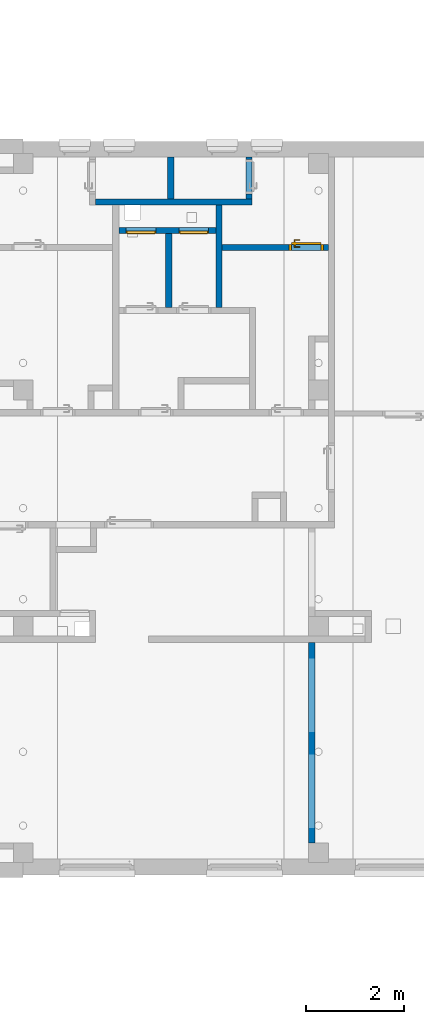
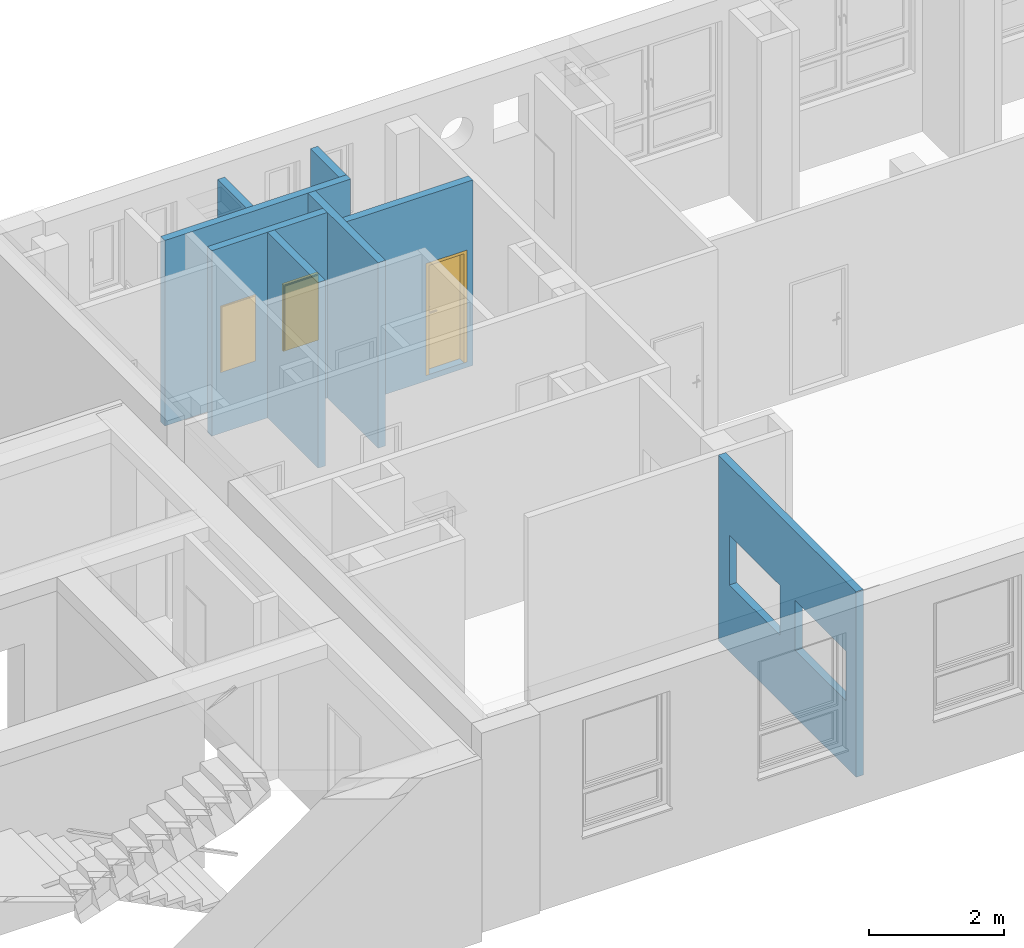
# One storey, part 11 of 50: 8 walls, 2 windows, 1 door, 6 openings.
"""IFC4 building model written with IfcOpenShell, lengths in metres."""

from ifc_helpers import new_model, entity, si_unit, converted_unit, derived_unit, frame, frame_2d, origin, origin_with_axes, place, context, subcontext, project, spatial, polyline, rectangle, outline, extrude, closed_shell, open_shell, faceted_brep, surface_model, source, transform, mapped, material, layer, layer_set, layer_usage, type_object, element, fill, save


model = new_model("IFC4")

# Units and contexts
model_context = context("Model", 3, precision=1e-05, world=origin())
body_context = subcontext(model_context, "Body", "Model", "MODEL_VIEW")
ifc_project = project(units=[si_unit("LENGTHUNIT", "METRE"), si_unit("AREAUNIT", "SQUARE_METRE"), si_unit("VOLUMEUNIT", "CUBIC_METRE"), si_unit("MASSUNIT", "GRAM", prefix="KILO"), converted_unit("PLANEANGLEUNIT", "DEGREE", entity("IfcPlaneAngleMeasure", 0.0174532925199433), si_unit("PLANEANGLEUNIT", "RADIAN"), dimensions=[0, 0, 0, 0, 0, 0, 0]), derived_unit("THERMALTRANSMITTANCEUNIT", [(si_unit("POWERUNIT", "WATT"), 1), (si_unit("THERMODYNAMICTEMPERATUREUNIT", "KELVIN"), -1), (si_unit("LENGTHUNIT", "METRE"), -2)]), derived_unit("VOLUMETRICFLOWRATEUNIT", [(si_unit("LENGTHUNIT", "METRE"), 3), (converted_unit("TIMEUNIT", "hour", entity("IfcTimeMeasure", 3600.0), si_unit("TIMEUNIT", "SECOND"), dimensions=[0, 0, 1, 0, 0, 0, 0]), -1), (si_unit("LENGTHUNIT", "METRE"), -1)])], contexts=[model_context])

# Site, building, storey
site_placement = place(None, origin())
site = spatial("IfcSite", under=ifc_project, at=site_placement, Name="3. ASŘ", CompositionType="ELEMENT")
building_placement = place(site_placement, origin())
building = spatial("IfcBuilding", under=site, at=building_placement, Name="Pavilon C", CompositionType="ELEMENT")
storey_placement = place(building_placement, frame((0.0, 0.0, 3.6)))
storey = spatial("IfcBuildingStorey", under=building, at=storey_placement, Name="Půdorys 2.NP", CompositionType="ELEMENT", Elevation=3.6)

# Wall, openings
ifc_material_1 = material(Name="ZDIVO Z CDm")
ifc_layer_1 = layer(ifc_material_1, 0.125)
ifc_layer_set_1 = layer_set([ifc_layer_1])
ifc_layer_usage_1 = layer_usage(ifc_layer_set_1, "AXIS2", "POSITIVE", 0.0)
wall_1_placement = place(storey_placement, frame((5.80000000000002, 5.075, -0.1), z_axis=(0.0, 0.0, 1.0), x_axis=(-2.23188883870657e-16, -1.0, 0.0)))
wall_1 = element("IfcWall", 1, at=wall_1_placement, inside=storey, material=ifc_layer_usage_1, Name="ZDIVO Z CDm", context=body_context, shape_type="SweptSolid", body=[
    extrude(rectangle(XDim=4.075, YDim=0.125, at=frame_2d((2.0375, 0.0625), x_axis=(1.0, 0.0))), origin_with_axes(), (0.0, 0.0, 1.0), 3.35),
])
opening_1_placement = place(wall_1_placement, frame((0.325000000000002, 7.2536387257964e-17, 1.2), z_axis=(0.0, 1.0, 0.0), x_axis=(0.0, 0.0, 1.0)))
element("IfcOpeningElement", 2, at=opening_1_placement, cuts=wall_1, Name="Okenní otvor", ObjectType="Opening", context=body_context, shape_type="SweptSolid", body=[
    extrude(outline(polyline([(0.0, 1.5), (0.9, 1.5), (0.9, 0.0), (0.0, 0.0), (0.0, 1.5)])), origin_with_axes(), (0.0, 0.0, 1.0), 0.125),
])
opening_2_placement = place(wall_1_placement, frame((2.275, -4.01739990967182e-16, 1.2), z_axis=(0.0, 1.0, 0.0), x_axis=(0.0, 0.0, 1.0)))
element("IfcOpeningElement", 3, at=opening_2_placement, cuts=wall_1, Name="Okenní otvor", ObjectType="Opening", context=body_context, shape_type="SweptSolid", body=[
    extrude(outline(polyline([(0.0, 1.5), (0.9, 1.5), (0.9, 0.0), (0.0, 0.0), (0.0, 1.5)])), origin_with_axes(), (0.0, 0.0, 1.0), 0.125),
])

# Wall
ifc_material_2 = material(Name="ZDIVO Z CDm")
ifc_layer_2 = layer(ifc_material_2, 0.125)
ifc_layer_set_2 = layer_set([ifc_layer_2])
ifc_layer_usage_2 = layer_usage(ifc_layer_set_2, "AXIS2", "POSITIVE", 0.0)
wall_2_placement = place(storey_placement, frame((1.475, 13.955, -0.1)))
element("IfcWall", 4, at=wall_2_placement, inside=storey, material=ifc_layer_usage_2, Name="ZDIVO Z CDm", context=body_context, shape_type="SweptSolid", body=[
    extrude(rectangle(XDim=3.175, YDim=0.125, at=frame_2d((1.5875, 0.0625), x_axis=(1.0, 0.0))), origin_with_axes(), (0.0, 0.0, 1.0), 3.35),
])

# Wall, opening
ifc_material_3 = material(Name="ZDIVO Z CDm")
ifc_layer_3 = layer(ifc_material_3, 0.125)
ifc_layer_set_3 = layer_set([ifc_layer_3])
ifc_layer_usage_3 = layer_usage(ifc_layer_set_3, "AXIS2", "POSITIVE", 0.0)
wall_3_placement = place(storey_placement, frame((4.65, 14.08, -0.1), z_axis=(0.0, 0.0, 1.0), x_axis=(0.0, 1.0, 0.0)))
wall_3 = element("IfcWall", 5, at=wall_3_placement, inside=storey, material=ifc_layer_usage_3, Name="ZDIVO Z CDm", context=body_context, shape_type="SweptSolid", body=[
    extrude(rectangle(XDim=0.85, YDim=0.125, at=frame_2d((0.425, 0.0625), x_axis=(1.0, 0.0))), origin_with_axes(), (0.0, 0.0, 1.0), 3.35),
])
opening_3_placement = place(wall_3_placement, frame((0.799999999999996, 0.125, 0.1), z_axis=(0.0, -1.0, 0.0), x_axis=(0.0, 0.0, 1.0)))
element("IfcOpeningElement", 6, at=opening_3_placement, cuts=wall_3, Name="Dveřní otvor", ObjectType="Opening", context=body_context, shape_type="SweptSolid", body=[
    extrude(outline(polyline([(0.0, 0.7), (2.02, 0.7), (2.02, 0.0), (0.0, 0.0), (0.0, 0.7)])), origin_with_axes(), (0.0, 0.0, 1.0), 0.125),
])

# Wall
ifc_material_4 = material(Name="ZDIVO Z CDm")
ifc_layer_4 = layer(ifc_material_4, 0.125)
ifc_layer_set_4 = layer_set([ifc_layer_4])
ifc_layer_usage_4 = layer_usage(ifc_layer_set_4, "AXIS2", "POSITIVE", 0.0)
wall_4_placement = place(storey_placement, frame((2.9375, 14.93, -0.1), z_axis=(0.0, 0.0, 1.0), x_axis=(0.0, -1.0, 0.0)))
element("IfcWall", 7, at=wall_4_placement, inside=storey, material=ifc_layer_usage_4, Name="ZDIVO Z CDm", context=body_context, shape_type="SweptSolid", body=[
    extrude(rectangle(XDim=0.85, YDim=0.125, at=frame_2d((0.425, 0.0625), x_axis=(1.0, 0.0))), origin_with_axes(), (0.0, 0.0, 1.0), 3.35),
])

# Wall, openings, windows
ifc_material_5 = material(Name="ZDIVO Z CDm")
ifc_layer_5 = layer(ifc_material_5, 0.125)
ifc_layer_set_5 = layer_set([ifc_layer_5])
ifc_layer_usage_5 = layer_usage(ifc_layer_set_5, "AXIS2", "POSITIVE", 0.0)
wall_5_placement = place(storey_placement, frame((3.92, 13.505, -0.1), z_axis=(0.0, 0.0, 1.0), x_axis=(-1.0, 0.0, 0.0)))
wall_5 = element("IfcWall", 8, at=wall_5_placement, inside=storey, material=ifc_layer_usage_5, Name="ZDIVO Z CDm", context=body_context, shape_type="SweptSolid", body=[
    extrude(rectangle(XDim=1.975, YDim=0.125, at=frame_2d((0.9875, 0.0625), x_axis=(1.0, 0.0))), origin_with_axes(), (0.0, 0.0, 1.0), 3.35),
])
opening_4_placement = place(wall_5_placement, frame((1.825, 0.125, 1.1), z_axis=(0.0, -1.0, 0.0), x_axis=(0.0, 0.0, 1.0)))
opening_4 = element("IfcOpeningElement", 9, at=opening_4_placement, cuts=wall_5, Name="Okenní otvor", ObjectType="Opening", context=body_context, shape_type="SweptSolid", body=[
    extrude(outline(polyline([(0.0, 0.6), (1.2, 0.6), (1.2, 0.0), (0.0, 0.0), (0.0, 0.6)])), origin_with_axes(), (0.0, 0.0, 1.0), 0.125),
])
opening_5_placement = place(wall_5_placement, frame((0.75, 0.125, 1.1), z_axis=(0.0, -1.0, 0.0), x_axis=(0.0, 0.0, 1.0)))
opening_5 = element("IfcOpeningElement", 10, at=opening_5_placement, cuts=wall_5, Name="Okenní otvor", ObjectType="Opening", context=body_context, shape_type="SweptSolid", body=[
    extrude(outline(polyline([(0.0, 0.6), (1.2, 0.6), (1.2, 0.0), (0.0, 0.0), (0.0, 0.6)])), origin_with_axes(), (0.0, 0.0, 1.0), 0.125),
])
shared_shape_1 = source(origin_with_axes(), body_context, "Body", "Brep", [
    faceted_brep([(0.0, 0.0600000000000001, 1.2), (0.0, 0.06, 4.91096680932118e-19), (0.02, 0.06, 4.91096680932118e-19), (0.02, 0.0600000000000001, 1.2), (0.0, 0.01, 6.61433067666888e-18), (0.0, 0.0100000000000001, 1.2), (0.02, 0.0100000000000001, 1.2), (0.02, 0.01, 6.61433067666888e-18)], [[[0, 1, 2, 3]], [[4, 5, 6, 7]], [[1, 0, 5, 4]], [[2, 1, 4, 7]], [[3, 2, 7, 6]], [[0, 3, 6, 5]]], orient=[[False], [False], [False], [False], [False], [False]]),
    faceted_brep([(0.58, 0.0600000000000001, 1.2), (0.58, 0.06, 4.91096680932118e-19), (0.6, 0.06, 4.91096680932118e-19), (0.6, 0.0600000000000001, 1.2), (0.58, 0.01, 6.61433067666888e-18), (0.58, 0.0100000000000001, 1.2), (0.6, 0.0100000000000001, 1.2), (0.6, 0.01, 6.61433067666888e-18)], [[[0, 1, 2, 3]], [[4, 5, 6, 7]], [[1, 0, 5, 4]], [[2, 1, 4, 7]], [[3, 2, 7, 6]], [[0, 3, 6, 5]]], orient=[[False], [False], [False], [False], [False], [False]]),
    faceted_brep([(0.02, 0.06, 0.02), (0.02, 0.06, 4.91096680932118e-19), (0.58, 0.06, 4.91096680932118e-19), (0.58, 0.06, 0.02), (0.02, 0.01, 6.61433067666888e-18), (0.02, 0.01, 0.02), (0.58, 0.01, 0.02), (0.58, 0.01, 6.61433067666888e-18)], [[[0, 1, 2, 3]], [[4, 5, 6, 7]], [[1, 0, 5, 4]], [[2, 1, 4, 7]], [[3, 2, 7, 6]], [[0, 3, 6, 5]]], orient=[[False], [False], [False], [False], [False], [False]]),
    faceted_brep([(0.02, 0.0600000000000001, 1.2), (0.02, 0.0600000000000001, 1.18), (0.58, 0.0600000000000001, 1.18), (0.58, 0.0600000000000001, 1.2), (0.02, 0.0100000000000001, 1.18), (0.02, 0.0100000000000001, 1.2), (0.58, 0.0100000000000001, 1.2), (0.58, 0.0100000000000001, 1.18)], [[[0, 1, 2, 3]], [[4, 5, 6, 7]], [[1, 0, 5, 4]], [[2, 1, 4, 7]], [[3, 2, 7, 6]], [[0, 3, 6, 5]]], orient=[[False], [False], [False], [False], [False], [False]]),
    faceted_brep([(0.02, 0.0100000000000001, 1.18), (0.02, 0.01, 0.02), (0.58, 0.01, 0.02), (0.58, 0.0100000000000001, 1.18), (0.02, 0.0, 0.02), (0.02, 1.4210854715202e-16, 1.18), (0.58, 1.4210854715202e-16, 1.18), (0.58, 0.0, 0.02)], [[[0, 1, 2, 3]], [[4, 5, 6, 7]], [[1, 0, 5, 4]], [[2, 1, 4, 7]], [[3, 2, 7, 6]], [[0, 3, 6, 5]]], orient=[[False], [False], [False], [False], [False], [False]]),
])
window_1_placement = place(opening_5_placement, frame((0.0, 0.6, -0.01), z_axis=(1.0, 0.0, 0.0), x_axis=(0.0, -1.0, 0.0)))
window_1 = element("IfcWindow", 11, at=window_1_placement, inside=storey, Name="O01", OverallHeight=1.2, OverallWidth=0.6, PartitioningType="USERDEFINED", PredefinedType="WINDOW", context=body_context, shape_type="MappedRepresentation", body=[
    mapped(shared_shape_1, transform((0.0, 0.0, 0.0), x_axis=(1.0, 0.0, 0.0), y_axis=(0.0, -1.0, 0.0), z_axis=(0.0, 0.0, 1.0), scale=1.0)),
])
fill(opening_5, window_1)
shared_shape_2 = source(origin_with_axes(), body_context, "Body", "Brep", [
    faceted_brep([(0.0, 0.0600000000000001, 1.2), (0.0, 0.06, 4.91096680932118e-19), (0.02, 0.06, 4.91096680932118e-19), (0.02, 0.0600000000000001, 1.2), (0.0, 0.01, 6.61433067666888e-18), (0.0, 0.0100000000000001, 1.2), (0.02, 0.0100000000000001, 1.2), (0.02, 0.01, 6.61433067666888e-18)], [[[0, 1, 2, 3]], [[4, 5, 6, 7]], [[1, 0, 5, 4]], [[2, 1, 4, 7]], [[3, 2, 7, 6]], [[0, 3, 6, 5]]], orient=[[False], [False], [False], [False], [False], [False]]),
    faceted_brep([(0.58, 0.0600000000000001, 1.2), (0.58, 0.06, 4.91096680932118e-19), (0.6, 0.06, 4.91096680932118e-19), (0.6, 0.0600000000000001, 1.2), (0.58, 0.01, 6.61433067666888e-18), (0.58, 0.0100000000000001, 1.2), (0.6, 0.0100000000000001, 1.2), (0.6, 0.01, 6.61433067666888e-18)], [[[0, 1, 2, 3]], [[4, 5, 6, 7]], [[1, 0, 5, 4]], [[2, 1, 4, 7]], [[3, 2, 7, 6]], [[0, 3, 6, 5]]], orient=[[False], [False], [False], [False], [False], [False]]),
    faceted_brep([(0.02, 0.06, 0.02), (0.02, 0.06, 4.91096680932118e-19), (0.58, 0.06, 4.91096680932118e-19), (0.58, 0.06, 0.02), (0.02, 0.01, 6.61433067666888e-18), (0.02, 0.01, 0.02), (0.58, 0.01, 0.02), (0.58, 0.01, 6.61433067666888e-18)], [[[0, 1, 2, 3]], [[4, 5, 6, 7]], [[1, 0, 5, 4]], [[2, 1, 4, 7]], [[3, 2, 7, 6]], [[0, 3, 6, 5]]], orient=[[False], [False], [False], [False], [False], [False]]),
    faceted_brep([(0.02, 0.0600000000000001, 1.2), (0.02, 0.0600000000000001, 1.18), (0.58, 0.0600000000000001, 1.18), (0.58, 0.0600000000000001, 1.2), (0.02, 0.0100000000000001, 1.18), (0.02, 0.0100000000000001, 1.2), (0.58, 0.0100000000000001, 1.2), (0.58, 0.0100000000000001, 1.18)], [[[0, 1, 2, 3]], [[4, 5, 6, 7]], [[1, 0, 5, 4]], [[2, 1, 4, 7]], [[3, 2, 7, 6]], [[0, 3, 6, 5]]], orient=[[False], [False], [False], [False], [False], [False]]),
    faceted_brep([(0.02, 0.0100000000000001, 1.18), (0.02, 0.01, 0.02), (0.58, 0.01, 0.02), (0.58, 0.0100000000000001, 1.18), (0.02, 0.0, 0.02), (0.02, 1.4210854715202e-16, 1.18), (0.58, 1.4210854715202e-16, 1.18), (0.58, 0.0, 0.02)], [[[0, 1, 2, 3]], [[4, 5, 6, 7]], [[1, 0, 5, 4]], [[2, 1, 4, 7]], [[3, 2, 7, 6]], [[0, 3, 6, 5]]], orient=[[False], [False], [False], [False], [False], [False]]),
])
window_2_placement = place(opening_4_placement, frame((0.0, 0.0, -0.01), z_axis=(1.0, 0.0, 0.0), x_axis=(0.0, 1.0, 0.0)))
window_2 = element("IfcWindow", 12, at=window_2_placement, inside=storey, Name="O01", OverallHeight=1.2, OverallWidth=0.6, PartitioningType="USERDEFINED", PredefinedType="WINDOW", context=body_context, shape_type="MappedRepresentation", body=[
    mapped(shared_shape_2, transform((0.0, 0.0, 0.0), x_axis=(1.0, 0.0, 0.0), y_axis=(0.0, 1.0, 0.0), z_axis=(0.0, 0.0, 1.0), scale=1.0)),
])
fill(opening_4, window_2)

# Walls
ifc_material_6 = material(Name="ZDIVO Z CDm")
ifc_layer_6 = layer(ifc_material_6, 0.125)
ifc_layer_set_6 = layer_set([ifc_layer_6])
ifc_layer_usage_6 = layer_usage(ifc_layer_set_6, "AXIS2", "POSITIVE", 0.0)
wall_6_placement = place(storey_placement, frame((2.895, 13.38, -0.1), z_axis=(0.0, 0.0, 1.0), x_axis=(-3.03164900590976e-16, -1.0, 0.0)))
element("IfcWall", 13, at=wall_6_placement, inside=storey, material=ifc_layer_usage_6, Name="ZDIVO Z CDm", context=body_context, shape_type="SweptSolid", body=[
    extrude(rectangle(XDim=1.5, YDim=0.125, at=frame_2d((0.75, 0.0625), x_axis=(1.0, 0.0))), origin_with_axes(), (0.0, 0.0, 1.0), 3.35),
])
ifc_material_7 = material(Name="ZDIVO Z CDm")
ifc_layer_7 = layer(ifc_material_7, 0.125)
ifc_layer_set_7 = layer_set([ifc_layer_7])
ifc_layer_usage_7 = layer_usage(ifc_layer_set_7, "AXIS2", "POSITIVE", 0.0)
wall_7_placement = place(storey_placement, frame((3.92, 13.955, -0.1), z_axis=(0.0, 0.0, 1.0), x_axis=(-2.19155349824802e-16, -1.0, 0.0)))
element("IfcWall", 14, at=wall_7_placement, inside=storey, material=ifc_layer_usage_7, Name="ZDIVO Z CDm", context=body_context, shape_type="SweptSolid", body=[
    extrude(rectangle(XDim=2.075, YDim=0.125, at=frame_2d((1.0375, 0.0625), x_axis=(1.0, 0.0))), origin_with_axes(), (0.0, 0.0, 1.0), 3.35),
])

# Wall, opening, door
ifc_material_8 = material(Name="ZDIVO Z CDm")
ifc_layer_8 = layer(ifc_material_8, 0.125)
ifc_layer_set_8 = layer_set([ifc_layer_8])
ifc_layer_usage_8 = layer_usage(ifc_layer_set_8, "AXIS2", "POSITIVE", 0.0)
wall_8_placement = place(storey_placement, frame((6.20000000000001, 13.155, -0.1), z_axis=(0.0, 0.0, 1.0), x_axis=(-1.0, 0.0, 0.0)))
wall_8 = element("IfcWall", 15, at=wall_8_placement, inside=storey, material=ifc_layer_usage_8, Name="ZDIVO Z CDm", context=body_context, shape_type="SweptSolid", body=[
    extrude(rectangle(XDim=2.15500000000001, YDim=0.125, at=frame_2d((1.0775, 0.0625), x_axis=(1.0, 0.0))), origin_with_axes(), (0.0, 0.0, 1.0), 3.35),
])
opening_6_placement = place(wall_8_placement, frame((0.1, 0.0, 0.1), z_axis=(0.0, 1.0, 0.0), x_axis=(0.0, 0.0, 1.0)))
opening_6 = element("IfcOpeningElement", 16, at=opening_6_placement, cuts=wall_8, Name="Dveřní otvor", ObjectType="Opening", context=body_context, shape_type="SweptSolid", body=[
    extrude(outline(polyline([(0.0, 0.7), (2.02, 0.7), (2.02, 0.0), (0.0, 0.0), (0.0, 0.7)])), origin_with_axes(), (0.0, 0.0, 1.0), 0.125),
])
door_type = type_object("IfcDoorType", Name="D101", OperationType="NOTDEFINED", ParameterTakesPrecedence=False, PredefinedType="DOOR")
shared_shape_3 = source(origin_with_axes(), body_context, "Body", "SurfaceModel", [
    surface_model("IfcShellBasedSurfaceModel", [(0.0, 0.125, 2.02), (0.0, 0.125, -7.65404249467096e-18), (0.05, 0.125, -7.65404249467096e-18), (0.05, 0.125, 2.02), (0.0, 0.0, 7.65404249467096e-18), (0.0, 2.41584530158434e-16, 2.02), (0.05, 2.41584530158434e-16, 2.02), (0.05, 0.0, 7.65404249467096e-18)], [closed_shell([[[0, 1, 2, 3]], [[4, 5, 6, 7]], [[1, 0, 5, 4]], [[2, 1, 4, 7]], [[3, 2, 7, 6]], [[0, 3, 6, 5]]], orient=[[False], [False], [False], [False], [False], [False]])]),
    surface_model("IfcShellBasedSurfaceModel", [(0.65, 0.125, 2.02), (0.65, 0.125, -7.65404249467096e-18), (0.7, 0.125, -7.65404249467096e-18), (0.7, 0.125, 2.02), (0.65, 0.0, 7.65404249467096e-18), (0.65, 2.41584530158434e-16, 2.02), (0.7, 2.41584530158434e-16, 2.02), (0.7, 0.0, 7.65404249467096e-18)], [closed_shell([[[0, 1, 2, 3]], [[4, 5, 6, 7]], [[1, 0, 5, 4]], [[2, 1, 4, 7]], [[3, 2, 7, 6]], [[0, 3, 6, 5]]], orient=[[False], [False], [False], [False], [False], [False]])]),
    surface_model("IfcShellBasedSurfaceModel", [(0.05, 0.125, 2.02), (0.05, 0.125, 1.97), (0.65, 0.125, 1.97), (0.65, 0.125, 2.02), (0.05, 2.41584530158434e-16, 1.97), (0.05, 2.41584530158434e-16, 2.02), (0.65, 2.41584530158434e-16, 2.02), (0.65, 2.41584530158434e-16, 1.97)], [closed_shell([[[0, 1, 2, 3]], [[4, 5, 6, 7]], [[1, 0, 5, 4]], [[2, 1, 4, 7]], [[3, 2, 7, 6]], [[0, 3, 6, 5]]], orient=[[False], [False], [False], [False], [False], [False]])]),
    surface_model("IfcShellBasedSurfaceModel", [(0.05, 0.165, 1.97), (0.05, 0.165, -1.25526296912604e-17), (0.65, 0.165, -1.25526296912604e-17), (0.65, 0.165, 1.97), (0.05, 0.125, -7.65404249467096e-18), (0.05, 0.125, 1.97), (0.65, 0.125, 1.97), (0.65, 0.125, -7.65404249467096e-18)], [closed_shell([[[0, 1, 2, 3]], [[4, 5, 6, 7]], [[1, 0, 5, 4]], [[2, 1, 4, 7]], [[3, 2, 7, 6]], [[0, 3, 6, 5]]], orient=[[False], [False], [False], [False], [False], [False]])]),
    surface_model("IfcShellBasedSurfaceModel", [(0.56, 0.125, 1.125), (0.56, 0.125, 0.91), (0.61, 0.125, 0.91), (0.61, 0.125, 1.125), (0.56, 0.115, 0.91), (0.56, 0.115, 1.125), (0.61, 0.115, 1.125), (0.61, 0.115, 0.91)], [closed_shell([[[0, 1, 2, 3]], [[4, 5, 6, 7]], [[1, 0, 5, 4]], [[2, 1, 4, 7]], [[3, 2, 7, 6]], [[0, 3, 6, 5]]], orient=[[False], [False], [False], [False], [False], [False]])]),
    surface_model("IfcShellBasedSurfaceModel", [(0.585, 0.115, 1.06), (0.58, 0.115, 1.05866025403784), (0.576339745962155, 0.115, 1.055), (0.575, 0.115, 1.05), (0.576339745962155, 0.115, 1.045), (0.58, 0.115, 1.04133974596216), (0.585, 0.115, 1.04), (0.59, 0.115, 1.04133974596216), (0.593660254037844, 0.115, 1.045), (0.595, 0.115, 1.05), (0.593660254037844, 0.115, 1.055), (0.59, 0.115, 1.05866025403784), (0.59, 0.0700000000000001, 1.05866025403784), (0.585, 0.0750000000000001, 1.06), (0.593660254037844, 0.0663397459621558, 1.055), (0.595, 0.0650000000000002, 1.05), (0.593660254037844, 0.0663397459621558, 1.045), (0.59, 0.0700000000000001, 1.04133974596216), (0.585, 0.0750000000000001, 1.04), (0.58, 0.0800000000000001, 1.04133974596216), (0.576339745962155, 0.0836602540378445, 1.045), (0.575, 0.0850000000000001, 1.05), (0.576339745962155, 0.0836602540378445, 1.055), (0.58, 0.0800000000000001, 1.05866025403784), (0.47, 0.0700000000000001, 1.05866025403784), (0.47, 0.0750000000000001, 1.06), (0.47, 0.0663397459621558, 1.055), (0.47, 0.0650000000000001, 1.05), (0.47, 0.0663397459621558, 1.045), (0.47, 0.0700000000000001, 1.04133974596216), (0.47, 0.0750000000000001, 1.04), (0.47, 0.0800000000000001, 1.04133974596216), (0.47, 0.0836602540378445, 1.045), (0.47, 0.0850000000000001, 1.05), (0.47, 0.0836602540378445, 1.055), (0.47, 0.0800000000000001, 1.05866025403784)], [open_shell([[[0, 1, 2, 3, 4, 5, 6, 7, 8, 9, 10, 11]], [[0, 11, 12, 13]], [[11, 10, 14, 12]], [[10, 9, 15, 14]], [[9, 8, 16, 15]], [[8, 7, 17, 16]], [[7, 6, 18, 17]], [[6, 5, 19, 18]], [[5, 4, 20, 19]], [[4, 3, 21, 20]], [[3, 2, 22, 21]], [[2, 1, 23, 22]], [[1, 0, 13, 23]], [[13, 12, 24, 25]], [[12, 14, 26, 24]], [[14, 15, 27, 26]], [[15, 16, 28, 27]], [[16, 17, 29, 28]], [[17, 18, 30, 29]], [[18, 19, 31, 30]], [[19, 20, 32, 31]], [[20, 21, 33, 32]], [[21, 22, 34, 33]], [[22, 23, 35, 34]], [[23, 13, 25, 35]]], orient=[[False], [False], [False], [False], [False], [False], [False], [False], [False], [False], [False], [False], [False], [False], [False], [False], [False], [False], [False], [False], [False], [False], [False], [False], [False]])]),
    surface_model("IfcShellBasedSurfaceModel", [(0.56, 0.165, 1.125), (0.61, 0.165, 1.125), (0.61, 0.165, 0.91), (0.56, 0.165, 0.91), (0.56, 0.175, 0.91), (0.61, 0.175, 0.91), (0.61, 0.175, 1.125), (0.56, 0.175, 1.125)], [closed_shell([[[0, 1, 2, 3]], [[4, 5, 6, 7]], [[3, 4, 7, 0]], [[2, 5, 4, 3]], [[1, 6, 5, 2]], [[0, 7, 6, 1]]], orient=[[False], [False], [False], [False], [False], [False]])]),
    surface_model("IfcShellBasedSurfaceModel", [(0.585, 0.175, 1.06), (0.59, 0.175, 1.05866025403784), (0.593660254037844, 0.175, 1.055), (0.595, 0.175, 1.05), (0.593660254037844, 0.175, 1.045), (0.59, 0.175, 1.04133974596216), (0.585, 0.175, 1.04), (0.58, 0.175, 1.04133974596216), (0.576339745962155, 0.175, 1.045), (0.575, 0.175, 1.05), (0.576339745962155, 0.175, 1.055), (0.58, 0.175, 1.05866025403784), (0.585, 0.215, 1.06), (0.59, 0.22, 1.05866025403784), (0.593660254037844, 0.223660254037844, 1.055), (0.595, 0.225, 1.05), (0.593660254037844, 0.223660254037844, 1.045), (0.59, 0.22, 1.04133974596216), (0.585, 0.215, 1.04), (0.58, 0.21, 1.04133974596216), (0.576339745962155, 0.206339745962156, 1.045), (0.575, 0.205, 1.05), (0.576339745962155, 0.206339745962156, 1.055), (0.58, 0.21, 1.05866025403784), (0.47, 0.215, 1.06), (0.47, 0.22, 1.05866025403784), (0.47, 0.223660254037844, 1.055), (0.47, 0.225, 1.05), (0.47, 0.223660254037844, 1.045), (0.47, 0.22, 1.04133974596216), (0.47, 0.215, 1.04), (0.47, 0.21, 1.04133974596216), (0.47, 0.206339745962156, 1.045), (0.47, 0.205, 1.05), (0.47, 0.206339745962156, 1.055), (0.47, 0.21, 1.05866025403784)], [open_shell([[[0, 1, 2, 3, 4, 5, 6, 7, 8, 9, 10, 11]], [[0, 12, 13, 1]], [[1, 13, 14, 2]], [[2, 14, 15, 3]], [[3, 15, 16, 4]], [[4, 16, 17, 5]], [[5, 17, 18, 6]], [[6, 18, 19, 7]], [[7, 19, 20, 8]], [[8, 20, 21, 9]], [[9, 21, 22, 10]], [[10, 22, 23, 11]], [[11, 23, 12, 0]], [[12, 24, 25, 13]], [[13, 25, 26, 14]], [[14, 26, 27, 15]], [[15, 27, 28, 16]], [[16, 28, 29, 17]], [[17, 29, 30, 18]], [[18, 30, 31, 19]], [[19, 31, 32, 20]], [[20, 32, 33, 21]], [[21, 33, 34, 22]], [[22, 34, 35, 23]], [[23, 35, 24, 12]]], orient=[[False], [False], [False], [False], [False], [False], [False], [False], [False], [False], [False], [False], [False], [False], [False], [False], [False], [False], [False], [False], [False], [False], [False], [False], [False]])]),
])
door_placement = place(opening_6_placement, frame((0.0, 0.0, 0.125), z_axis=(1.0, 0.0, 0.0), x_axis=(0.0, 1.0, -2.44929359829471e-16)))
door = element("IfcDoor", 17, at=door_placement, inside=storey, type_object=door_type, Name="D101", OverallHeight=2.02, OverallWidth=0.7, context=body_context, shape_type="MappedRepresentation", body=[
    mapped(shared_shape_3, transform((0.0, 0.0, 0.0), x_axis=(1.0, 0.0, 0.0), y_axis=(0.0, -1.0, 0.0), z_axis=(0.0, 0.0, 1.0), scale=1.0)),
])
fill(opening_6, door)

save(model, "model.ifc")
